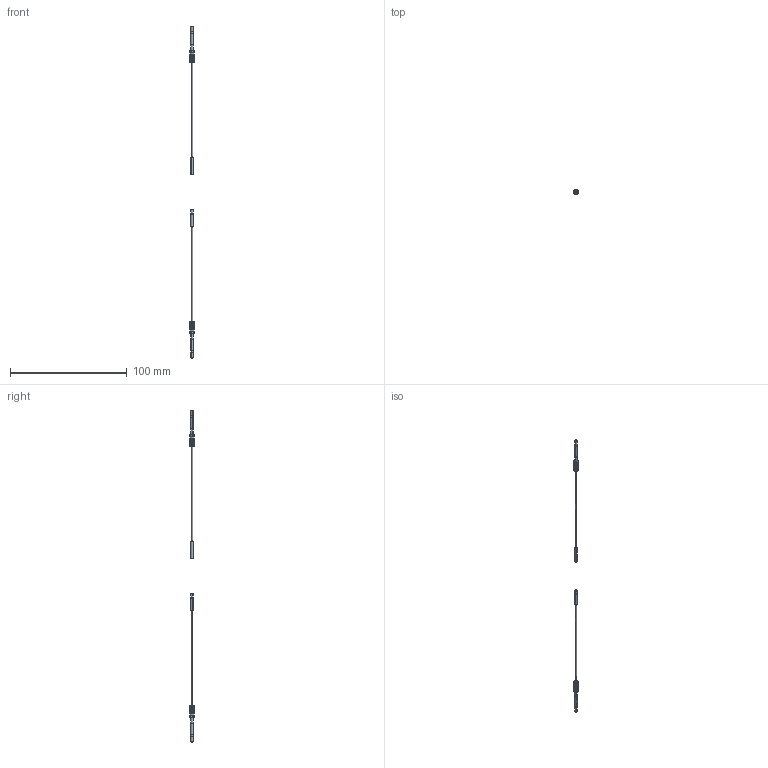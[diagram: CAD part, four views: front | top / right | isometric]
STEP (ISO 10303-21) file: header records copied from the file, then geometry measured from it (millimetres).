
FILE_DESCRIPTION (( 'STEP AP214' ), '1' );
FILE_NAME ('FTC-220-05_FTC-220-05R.STEP', '2019-06-18T02:27:04', ( '' ), ( '' ), 'SwSTEP 2.0', 'SolidWorks 2018', '' );
FILE_SCHEMA (( 'AUTOMOTIVE_DESIGN' ));
Length unit declared in the file: millimetre
Products named in the file (1): FTC-220-05_FTC-220-05R
Bounding box: 4 x 4 x 284 mm (x, y, z)
Volume: 586 mm3; surface area: 1706.5 mm2
Topology: 4 solids, 4 shells, 200 faces, 450 edges, 274 vertices
Faces by surface type: plane 108, cylinder 64, cone 16, torus 12
Entity records: 5767 total; most frequent: CARTESIAN_POINT 1213, DIRECTION 946, ORIENTED_EDGE 900, EDGE_CURVE 450, AXIS2_PLACEMENT_3D 391, VERTEX_POINT 274, EDGE_LOOP 220, ADVANCED_FACE 200
